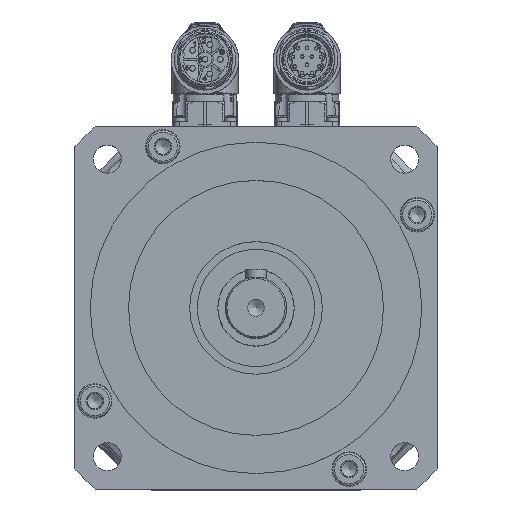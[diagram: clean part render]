
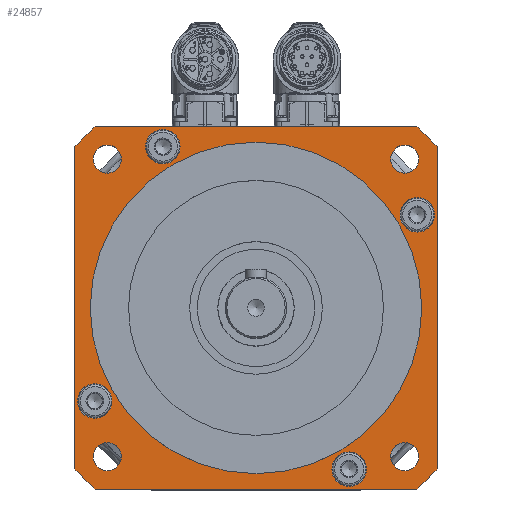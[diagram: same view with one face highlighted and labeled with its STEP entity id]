
A CAD part, top view. The second image highlights one B-rep face of the part: STEP entity #24857.
In plain terms, the highlighted planar face has unit normal (0, 0, 1).
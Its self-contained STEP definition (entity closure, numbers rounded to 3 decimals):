
#1983=LINE('',#36513,#3214);
#1987=LINE('',#36519,#3218);
#1988=LINE('',#36521,#3219);
#1989=LINE('',#36523,#3220);
#3214=VECTOR('',#29753,126.238);
#3218=VECTOR('',#29761,126.238);
#3219=VECTOR('',#29764,126.238);
#3220=VECTOR('',#29767,126.238);
#6031=FACE_BOUND('',#8243,.T.);
#6032=FACE_BOUND('',#8244,.T.);
#6033=FACE_BOUND('',#8245,.T.);
#6034=FACE_BOUND('',#8246,.T.);
#6035=FACE_BOUND('',#8247,.T.);
#6036=FACE_BOUND('',#8248,.T.);
#6037=FACE_BOUND('',#8249,.T.);
#6038=FACE_BOUND('',#8250,.T.);
#6039=FACE_BOUND('',#8251,.T.);
#6040=FACE_BOUND('',#8252,.T.);
#8243=EDGE_LOOP('',(#17906));
#8244=EDGE_LOOP('',(#17907));
#8245=EDGE_LOOP('',(#17908));
#8246=EDGE_LOOP('',(#17909));
#8247=EDGE_LOOP('',(#17910));
#8248=EDGE_LOOP('',(#17911));
#8249=EDGE_LOOP('',(#17912));
#8250=EDGE_LOOP('',(#17913));
#8251=EDGE_LOOP('',(#17914));
#8252=EDGE_LOOP('',(#17915,#17916,#17917,#17918,#17919,#17920,#17921,#17922));
#10121=CIRCLE('',#26518,5.5);
#10125=CIRCLE('',#26524,6.75);
#10127=CIRCLE('',#26528,5.5);
#10131=CIRCLE('',#26534,6.75);
#10133=CIRCLE('',#26538,5.5);
#10137=CIRCLE('',#26544,6.75);
#10141=CIRCLE('',#26551,6.75);
#10143=CIRCLE('',#26555,5.5);
#10152=CIRCLE('',#26570,65.);
#10153=CIRCLE('',#26573,95.);
#10155=CIRCLE('',#26576,95.);
#10158=CIRCLE('',#26580,95.);
#10159=CIRCLE('',#26582,95.);
#11407=VERTEX_POINT('',#36389);
#11411=VERTEX_POINT('',#36399);
#11413=VERTEX_POINT('',#36405);
#11417=VERTEX_POINT('',#36415);
#11419=VERTEX_POINT('',#36421);
#11423=VERTEX_POINT('',#36431);
#11427=VERTEX_POINT('',#36442);
#11429=VERTEX_POINT('',#36448);
#11438=VERTEX_POINT('',#36472);
#11439=VERTEX_POINT('',#36476);
#11441=VERTEX_POINT('',#36479);
#11443=VERTEX_POINT('',#36485);
#11445=VERTEX_POINT('',#36488);
#11448=VERTEX_POINT('',#36495);
#11450=VERTEX_POINT('',#36499);
#11451=VERTEX_POINT('',#36503);
#11453=VERTEX_POINT('',#36506);
#13998=EDGE_CURVE('',#11407,#11407,#10121,.T.);
#14002=EDGE_CURVE('',#11411,#11411,#10125,.T.);
#14004=EDGE_CURVE('',#11413,#11413,#10127,.T.);
#14008=EDGE_CURVE('',#11417,#11417,#10131,.T.);
#14010=EDGE_CURVE('',#11419,#11419,#10133,.T.);
#14014=EDGE_CURVE('',#11423,#11423,#10137,.T.);
#14018=EDGE_CURVE('',#11427,#11427,#10141,.T.);
#14020=EDGE_CURVE('',#11429,#11429,#10143,.T.);
#14029=EDGE_CURVE('',#11438,#11438,#10152,.T.);
#14031=EDGE_CURVE('',#11441,#11439,#10153,.T.);
#14035=EDGE_CURVE('',#11445,#11443,#10155,.T.);
#14041=EDGE_CURVE('',#11448,#11450,#10158,.T.);
#14043=EDGE_CURVE('',#11453,#11451,#10159,.T.);
#14047=EDGE_CURVE('',#11451,#11448,#1983,.T.);
#14051=EDGE_CURVE('',#11443,#11453,#1987,.T.);
#14052=EDGE_CURVE('',#11439,#11445,#1988,.T.);
#14053=EDGE_CURVE('',#11450,#11441,#1989,.T.);
#17906=ORIENTED_EDGE('',*,*,#13998,.T.);
#17907=ORIENTED_EDGE('',*,*,#14002,.T.);
#17908=ORIENTED_EDGE('',*,*,#14004,.T.);
#17909=ORIENTED_EDGE('',*,*,#14008,.T.);
#17910=ORIENTED_EDGE('',*,*,#14010,.T.);
#17911=ORIENTED_EDGE('',*,*,#14014,.T.);
#17912=ORIENTED_EDGE('',*,*,#14018,.T.);
#17913=ORIENTED_EDGE('',*,*,#14020,.T.);
#17914=ORIENTED_EDGE('',*,*,#14029,.T.);
#17915=ORIENTED_EDGE('',*,*,#14043,.T.);
#17916=ORIENTED_EDGE('',*,*,#14047,.T.);
#17917=ORIENTED_EDGE('',*,*,#14041,.T.);
#17918=ORIENTED_EDGE('',*,*,#14053,.T.);
#17919=ORIENTED_EDGE('',*,*,#14031,.T.);
#17920=ORIENTED_EDGE('',*,*,#14052,.T.);
#17921=ORIENTED_EDGE('',*,*,#14035,.T.);
#17922=ORIENTED_EDGE('',*,*,#14051,.T.);
#24223=PLANE('',#26589);
#24857=ADVANCED_FACE('',(#6031,#6032,#6033,#6034,#6035,#6036,#6037,#6038,
#6039,#6040),#24223,.T.);
#26518=AXIS2_PLACEMENT_3D('',#36390,#29610,#29611);
#26524=AXIS2_PLACEMENT_3D('',#36400,#29622,#29623);
#26528=AXIS2_PLACEMENT_3D('',#36406,#29630,#29631);
#26534=AXIS2_PLACEMENT_3D('',#36416,#29642,#29643);
#26538=AXIS2_PLACEMENT_3D('',#36422,#29650,#29651);
#26544=AXIS2_PLACEMENT_3D('',#36432,#29662,#29663);
#26551=AXIS2_PLACEMENT_3D('',#36443,#29676,#29677);
#26555=AXIS2_PLACEMENT_3D('',#36449,#29684,#29685);
#26570=AXIS2_PLACEMENT_3D('',#36473,#29714,#29715);
#26573=AXIS2_PLACEMENT_3D('',#36480,#29721,#29722);
#26576=AXIS2_PLACEMENT_3D('',#36489,#29729,#29730);
#26580=AXIS2_PLACEMENT_3D('',#36501,#29740,#29741);
#26582=AXIS2_PLACEMENT_3D('',#36507,#29745,#29746);
#26589=AXIS2_PLACEMENT_3D('',#36524,#29768,#29769);
#29610=DIRECTION('center_axis',(0.,0.,-1.));
#29611=DIRECTION('ref_axis',(0.,1.,0.));
#29622=DIRECTION('center_axis',(0.,0.,-1.));
#29623=DIRECTION('ref_axis',(0.,-1.,0.));
#29630=DIRECTION('center_axis',(0.,0.,-1.));
#29631=DIRECTION('ref_axis',(1.,0.,0.));
#29642=DIRECTION('center_axis',(0.,0.,-1.));
#29643=DIRECTION('ref_axis',(-1.,0.,0.));
#29650=DIRECTION('center_axis',(0.,0.,-1.));
#29651=DIRECTION('ref_axis',(0.,-1.,0.));
#29662=DIRECTION('center_axis',(0.,0.,-1.));
#29663=DIRECTION('ref_axis',(0.,1.,0.));
#29676=DIRECTION('center_axis',(0.,0.,-1.));
#29677=DIRECTION('ref_axis',(1.,0.,0.));
#29684=DIRECTION('center_axis',(0.,0.,-1.));
#29685=DIRECTION('ref_axis',(-1.,0.,0.));
#29714=DIRECTION('center_axis',(0.,0.,-1.));
#29715=DIRECTION('ref_axis',(-1.,0.,0.));
#29721=DIRECTION('center_axis',(0.,0.,1.));
#29722=DIRECTION('ref_axis',(-1.,0.,0.));
#29729=DIRECTION('center_axis',(0.,0.,1.));
#29730=DIRECTION('ref_axis',(-1.,0.,0.));
#29740=DIRECTION('center_axis',(0.,0.,1.));
#29741=DIRECTION('ref_axis',(-1.,0.,0.));
#29745=DIRECTION('center_axis',(0.,0.,1.));
#29746=DIRECTION('ref_axis',(-1.,0.,0.));
#29753=DIRECTION('',(0.,-1.,0.));
#29761=DIRECTION('',(-1.,0.,0.));
#29764=DIRECTION('',(0.,1.,0.));
#29767=DIRECTION('',(1.,0.,0.));
#29768=DIRECTION('center_axis',(0.,0.,1.));
#29769=DIRECTION('ref_axis',(1.,0.,0.));
#36389=CARTESIAN_POINT('',(58.336,52.836,15.));
#36390=CARTESIAN_POINT('Origin',(58.336,58.336,15.));
#36399=CARTESIAN_POINT('',(36.5,-69.97,15.));
#36400=CARTESIAN_POINT('Origin',(36.5,-63.22,15.));
#36405=CARTESIAN_POINT('',(52.836,-58.336,15.));
#36406=CARTESIAN_POINT('Origin',(58.336,-58.336,15.));
#36415=CARTESIAN_POINT('',(-69.97,-36.5,15.));
#36416=CARTESIAN_POINT('Origin',(-63.22,-36.5,15.));
#36421=CARTESIAN_POINT('',(-58.336,-52.836,15.));
#36422=CARTESIAN_POINT('Origin',(-58.336,-58.336,15.));
#36431=CARTESIAN_POINT('',(-36.5,69.97,15.));
#36432=CARTESIAN_POINT('Origin',(-36.5,63.22,15.));
#36442=CARTESIAN_POINT('',(69.97,36.5,15.));
#36443=CARTESIAN_POINT('Origin',(63.22,36.5,15.));
#36448=CARTESIAN_POINT('',(-52.836,58.336,15.));
#36449=CARTESIAN_POINT('Origin',(-58.336,58.336,15.));
#36472=CARTESIAN_POINT('',(65.,0.,15.));
#36473=CARTESIAN_POINT('Origin',(0.,0.,15.));
#36476=CARTESIAN_POINT('',(71.,-63.119,15.));
#36479=CARTESIAN_POINT('',(63.119,-71.,15.));
#36480=CARTESIAN_POINT('Origin',(0.,0.,15.));
#36485=CARTESIAN_POINT('',(63.119,71.,15.));
#36488=CARTESIAN_POINT('',(71.,63.119,15.));
#36489=CARTESIAN_POINT('Origin',(0.,0.,15.));
#36495=CARTESIAN_POINT('',(-71.,-63.119,15.));
#36499=CARTESIAN_POINT('',(-63.119,-71.,15.));
#36501=CARTESIAN_POINT('Origin',(0.,0.,15.));
#36503=CARTESIAN_POINT('',(-71.,63.119,15.));
#36506=CARTESIAN_POINT('',(-63.119,71.,15.));
#36507=CARTESIAN_POINT('Origin',(0.,0.,15.));
#36513=CARTESIAN_POINT('',(-71.,71.,15.));
#36519=CARTESIAN_POINT('',(71.,71.,15.));
#36521=CARTESIAN_POINT('',(71.,-71.,15.));
#36523=CARTESIAN_POINT('',(-71.,-71.,15.));
#36524=CARTESIAN_POINT('Origin',(0.,0.,15.));
